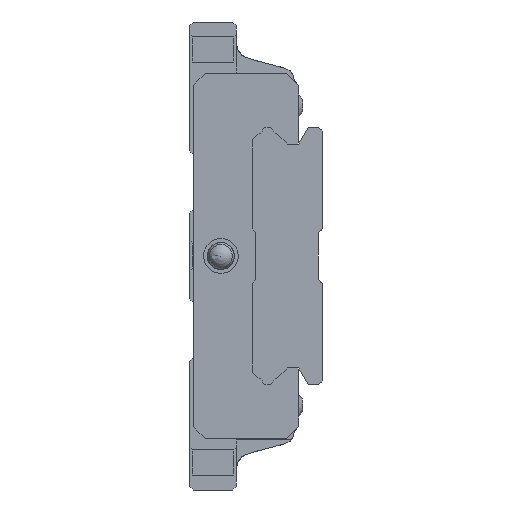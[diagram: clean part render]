
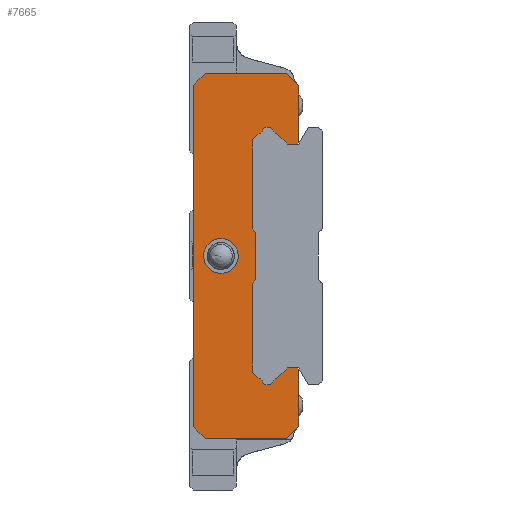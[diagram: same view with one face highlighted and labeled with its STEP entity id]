
A CAD part, left-side view. The second image highlights one B-rep face of the part: STEP entity #7665.
In plain terms, the highlighted planar face has unit normal (-1, 0, 0).
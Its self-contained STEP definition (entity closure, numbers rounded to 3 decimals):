
#58=LINE('',#11802,#438);
#66=LINE('',#11823,#446);
#68=LINE('',#11832,#448);
#75=LINE('',#11848,#455);
#76=LINE('',#11850,#456);
#77=LINE('',#11852,#457);
#78=LINE('',#11854,#458);
#79=LINE('',#11856,#459);
#80=LINE('',#11858,#460);
#81=LINE('',#11860,#461);
#82=LINE('',#11862,#462);
#83=LINE('',#11863,#463);
#84=LINE('',#11865,#464);
#85=LINE('',#11867,#465);
#86=LINE('',#11869,#466);
#87=LINE('',#11873,#467);
#88=LINE('',#11875,#468);
#89=LINE('',#11877,#469);
#90=LINE('',#11881,#470);
#91=LINE('',#11883,#471);
#92=LINE('',#11885,#472);
#93=LINE('',#11886,#473);
#94=LINE('',#11888,#474);
#95=LINE('',#11890,#475);
#96=LINE('',#11894,#476);
#97=LINE('',#11896,#477);
#98=LINE('',#11898,#478);
#99=LINE('',#11902,#479);
#100=LINE('',#11904,#480);
#101=LINE('',#11906,#481);
#438=VECTOR('',#9314,1000.);
#446=VECTOR('',#9328,1000.);
#448=VECTOR('',#9336,1000.);
#455=VECTOR('',#9347,1000.);
#456=VECTOR('',#9348,1000.);
#457=VECTOR('',#9349,1000.);
#458=VECTOR('',#9350,1000.);
#459=VECTOR('',#9351,1000.);
#460=VECTOR('',#9352,1000.);
#461=VECTOR('',#9353,1000.);
#462=VECTOR('',#9354,1000.);
#463=VECTOR('',#9355,1000.);
#464=VECTOR('',#9356,1000.);
#465=VECTOR('',#9357,1000.);
#466=VECTOR('',#9358,1000.);
#467=VECTOR('',#9361,1000.);
#468=VECTOR('',#9362,1000.);
#469=VECTOR('',#9363,1000.);
#470=VECTOR('',#9366,1000.);
#471=VECTOR('',#9367,1000.);
#472=VECTOR('',#9368,1000.);
#473=VECTOR('',#9369,1000.);
#474=VECTOR('',#9370,1000.);
#475=VECTOR('',#9371,1000.);
#476=VECTOR('',#9374,1000.);
#477=VECTOR('',#9375,1000.);
#478=VECTOR('',#9376,1000.);
#479=VECTOR('',#9379,1000.);
#480=VECTOR('',#9380,1000.);
#481=VECTOR('',#9381,1000.);
#839=PLANE('',#8238);
#1377=ORIENTED_EDGE('',*,*,#3219,.T.);
#1378=ORIENTED_EDGE('',*,*,#3220,.T.);
#1379=ORIENTED_EDGE('',*,*,#3208,.F.);
#1380=ORIENTED_EDGE('',*,*,#3221,.F.);
#1381=ORIENTED_EDGE('',*,*,#3222,.F.);
#1382=ORIENTED_EDGE('',*,*,#3223,.F.);
#1383=ORIENTED_EDGE('',*,*,#3224,.F.);
#1384=ORIENTED_EDGE('',*,*,#3225,.F.);
#1385=ORIENTED_EDGE('',*,*,#3226,.F.);
#1386=ORIENTED_EDGE('',*,*,#3227,.F.);
#1387=ORIENTED_EDGE('',*,*,#3212,.F.);
#1388=ORIENTED_EDGE('',*,*,#3228,.T.);
#1389=ORIENTED_EDGE('',*,*,#3229,.T.);
#1390=ORIENTED_EDGE('',*,*,#3230,.T.);
#1391=ORIENTED_EDGE('',*,*,#3231,.T.);
#1392=ORIENTED_EDGE('',*,*,#3232,.F.);
#1393=ORIENTED_EDGE('',*,*,#3233,.T.);
#1394=ORIENTED_EDGE('',*,*,#3234,.T.);
#1395=ORIENTED_EDGE('',*,*,#3235,.T.);
#1396=ORIENTED_EDGE('',*,*,#3236,.F.);
#1397=ORIENTED_EDGE('',*,*,#3237,.T.);
#1398=ORIENTED_EDGE('',*,*,#3238,.T.);
#1399=ORIENTED_EDGE('',*,*,#3239,.T.);
#1400=ORIENTED_EDGE('',*,*,#3198,.T.);
#1401=ORIENTED_EDGE('',*,*,#3240,.T.);
#1402=ORIENTED_EDGE('',*,*,#3241,.T.);
#1403=ORIENTED_EDGE('',*,*,#3242,.T.);
#1404=ORIENTED_EDGE('',*,*,#3243,.F.);
#1405=ORIENTED_EDGE('',*,*,#3244,.T.);
#1406=ORIENTED_EDGE('',*,*,#3245,.T.);
#1407=ORIENTED_EDGE('',*,*,#3246,.T.);
#1408=ORIENTED_EDGE('',*,*,#3247,.F.);
#1409=ORIENTED_EDGE('',*,*,#3248,.T.);
#1410=ORIENTED_EDGE('',*,*,#3249,.T.);
#1411=ORIENTED_EDGE('',*,*,#3250,.T.);
#3198=EDGE_CURVE('',#4119,#4120,#58,.T.);
#3208=EDGE_CURVE('',#4130,#4124,#66,.T.);
#3212=EDGE_CURVE('',#4134,#4135,#68,.T.);
#3219=EDGE_CURVE('',#4141,#4141,#4898,.T.);
#3220=EDGE_CURVE('',#4142,#4124,#75,.T.);
#3221=EDGE_CURVE('',#4143,#4130,#76,.T.);
#3222=EDGE_CURVE('',#4144,#4143,#77,.T.);
#3223=EDGE_CURVE('',#4145,#4144,#78,.T.);
#3224=EDGE_CURVE('',#4146,#4145,#79,.T.);
#3225=EDGE_CURVE('',#4147,#4146,#80,.T.);
#3226=EDGE_CURVE('',#4148,#4147,#81,.T.);
#3227=EDGE_CURVE('',#4135,#4148,#82,.T.);
#3228=EDGE_CURVE('',#4134,#4149,#83,.T.);
#3229=EDGE_CURVE('',#4149,#4150,#84,.T.);
#3230=EDGE_CURVE('',#4150,#4151,#85,.T.);
#3231=EDGE_CURVE('',#4151,#4152,#86,.T.);
#3232=EDGE_CURVE('',#4153,#4152,#4899,.T.);
#3233=EDGE_CURVE('',#4153,#4154,#87,.T.);
#3234=EDGE_CURVE('',#4154,#4155,#88,.T.);
#3235=EDGE_CURVE('',#4155,#4156,#89,.T.);
#3236=EDGE_CURVE('',#4157,#4156,#4900,.T.);
#3237=EDGE_CURVE('',#4157,#4158,#90,.T.);
#3238=EDGE_CURVE('',#4158,#4159,#91,.T.);
#3239=EDGE_CURVE('',#4159,#4119,#92,.T.);
#3240=EDGE_CURVE('',#4120,#4160,#93,.T.);
#3241=EDGE_CURVE('',#4160,#4161,#94,.T.);
#3242=EDGE_CURVE('',#4161,#4162,#95,.T.);
#3243=EDGE_CURVE('',#4163,#4162,#4901,.T.);
#3244=EDGE_CURVE('',#4163,#4164,#96,.T.);
#3245=EDGE_CURVE('',#4164,#4165,#97,.T.);
#3246=EDGE_CURVE('',#4165,#4166,#98,.T.);
#3247=EDGE_CURVE('',#4167,#4166,#4902,.T.);
#3248=EDGE_CURVE('',#4167,#4168,#99,.T.);
#3249=EDGE_CURVE('',#4168,#4169,#100,.T.);
#3250=EDGE_CURVE('',#4169,#4142,#101,.T.);
#4119=VERTEX_POINT('',#11798);
#4120=VERTEX_POINT('',#11801);
#4124=VERTEX_POINT('',#11810);
#4130=VERTEX_POINT('',#11822);
#4134=VERTEX_POINT('',#11831);
#4135=VERTEX_POINT('',#11833);
#4141=VERTEX_POINT('',#11847);
#4142=VERTEX_POINT('',#11849);
#4143=VERTEX_POINT('',#11851);
#4144=VERTEX_POINT('',#11853);
#4145=VERTEX_POINT('',#11855);
#4146=VERTEX_POINT('',#11857);
#4147=VERTEX_POINT('',#11859);
#4148=VERTEX_POINT('',#11861);
#4149=VERTEX_POINT('',#11864);
#4150=VERTEX_POINT('',#11866);
#4151=VERTEX_POINT('',#11868);
#4152=VERTEX_POINT('',#11870);
#4153=VERTEX_POINT('',#11872);
#4154=VERTEX_POINT('',#11874);
#4155=VERTEX_POINT('',#11876);
#4156=VERTEX_POINT('',#11878);
#4157=VERTEX_POINT('',#11880);
#4158=VERTEX_POINT('',#11882);
#4159=VERTEX_POINT('',#11884);
#4160=VERTEX_POINT('',#11887);
#4161=VERTEX_POINT('',#11889);
#4162=VERTEX_POINT('',#11891);
#4163=VERTEX_POINT('',#11893);
#4164=VERTEX_POINT('',#11895);
#4165=VERTEX_POINT('',#11897);
#4166=VERTEX_POINT('',#11899);
#4167=VERTEX_POINT('',#11901);
#4168=VERTEX_POINT('',#11903);
#4169=VERTEX_POINT('',#11905);
#4898=CIRCLE('',#8239,1.5);
#4899=CIRCLE('',#8240,1.04);
#4900=CIRCLE('',#8241,1.04);
#4901=CIRCLE('',#8242,1.04);
#4902=CIRCLE('',#8243,1.04);
#5429=EDGE_LOOP('',(#1377));
#5430=EDGE_LOOP('',(#1378,#1379,#1380,#1381,#1382,#1383,#1384,#1385,#1386,
#1387,#1388,#1389,#1390,#1391,#1392,#1393,#1394,#1395,#1396,#1397,#1398,
#1399,#1400,#1401,#1402,#1403,#1404,#1405,#1406,#1407,#1408,#1409,#1410,
#1411));
#6551=FACE_BOUND('',#5429,.T.);
#6552=FACE_BOUND('',#5430,.T.);
#7665=ADVANCED_FACE('',(#6551,#6552),#839,.F.);
#8238=AXIS2_PLACEMENT_3D('',#11845,#9343,#9344);
#8239=AXIS2_PLACEMENT_3D('',#11846,#9345,#9346);
#8240=AXIS2_PLACEMENT_3D('',#11871,#9359,#9360);
#8241=AXIS2_PLACEMENT_3D('',#11879,#9364,#9365);
#8242=AXIS2_PLACEMENT_3D('',#11892,#9372,#9373);
#8243=AXIS2_PLACEMENT_3D('',#11900,#9377,#9378);
#9314=DIRECTION('',(0.,0.,1.));
#9328=DIRECTION('',(0.,0.,-1.));
#9336=DIRECTION('',(0.,0.,-1.));
#9343=DIRECTION('',(1.,0.,0.));
#9344=DIRECTION('',(0.,0.,-1.));
#9345=DIRECTION('',(1.,0.,0.));
#9346=DIRECTION('',(0.,0.,-1.));
#9347=DIRECTION('',(0.,-0.316,0.949));
#9348=DIRECTION('',(0.,-0.707,-0.707));
#9349=DIRECTION('',(0.,-1.,0.));
#9350=DIRECTION('',(0.,-0.707,0.707));
#9351=DIRECTION('',(0.,0.,1.));
#9352=DIRECTION('',(0.,0.707,0.707));
#9353=DIRECTION('',(0.,1.,0.));
#9354=DIRECTION('',(0.,0.707,-0.707));
#9355=DIRECTION('',(0.,0.316,0.949));
#9356=DIRECTION('',(0.,0.,1.));
#9357=DIRECTION('',(0.,1.,0.));
#9358=DIRECTION('',(0.,0.707,-0.707));
#9359=DIRECTION('',(1.,0.,0.));
#9360=DIRECTION('',(0.,0.,-1.));
#9361=DIRECTION('',(0.,0.707,-0.707));
#9362=DIRECTION('',(0.,1.,0.));
#9363=DIRECTION('',(0.,0.707,0.707));
#9364=DIRECTION('',(1.,0.,0.));
#9365=DIRECTION('',(0.,0.,-1.));
#9366=DIRECTION('',(0.,0.707,0.707));
#9367=DIRECTION('',(0.,0.,1.));
#9368=DIRECTION('',(0.,-0.707,0.707));
#9369=DIRECTION('',(0.,0.707,0.707));
#9370=DIRECTION('',(0.,0.,1.));
#9371=DIRECTION('',(0.,-0.707,0.707));
#9372=DIRECTION('',(1.,0.,0.));
#9373=DIRECTION('',(0.,0.,-1.));
#9374=DIRECTION('',(0.,-0.707,0.707));
#9375=DIRECTION('',(0.,-1.,0.));
#9376=DIRECTION('',(0.,-0.707,-0.707));
#9377=DIRECTION('',(1.,0.,0.));
#9378=DIRECTION('',(0.,0.,-1.));
#9379=DIRECTION('',(0.,-0.707,-0.707));
#9380=DIRECTION('',(0.,-1.,0.));
#9381=DIRECTION('',(0.,0.,1.));
#11798=CARTESIAN_POINT('',(-24.6,6.,-3.));
#11801=CARTESIAN_POINT('',(-24.6,6.,3.));
#11802=CARTESIAN_POINT('',(-24.6,6.,-3.));
#11810=CARTESIAN_POINT('',(-24.6,0.5,15.487));
#11822=CARTESIAN_POINT('',(-24.6,0.5,21.8));
#11823=CARTESIAN_POINT('',(-24.6,0.5,21.8));
#11831=CARTESIAN_POINT('',(-24.6,0.5,-15.487));
#11832=CARTESIAN_POINT('',(-24.6,0.5,21.8));
#11833=CARTESIAN_POINT('',(-24.6,0.5,-21.8));
#11845=CARTESIAN_POINT('',(-24.6,0.,0.));
#11846=CARTESIAN_POINT('',(-24.6,10.5,0.));
#11847=CARTESIAN_POINT('',(-24.6,10.5,-1.5));
#11848=CARTESIAN_POINT('',(-24.6,0.6,15.187));
#11849=CARTESIAN_POINT('',(-24.6,0.6,15.187));
#11850=CARTESIAN_POINT('',(-24.6,2.1,23.4));
#11851=CARTESIAN_POINT('',(-24.6,2.1,23.4));
#11852=CARTESIAN_POINT('',(-24.6,12.5,23.4));
#11853=CARTESIAN_POINT('',(-24.6,12.5,23.4));
#11854=CARTESIAN_POINT('',(-24.6,14.,21.9));
#11855=CARTESIAN_POINT('',(-24.6,14.,21.9));
#11856=CARTESIAN_POINT('',(-24.6,14.,-21.9));
#11857=CARTESIAN_POINT('',(-24.6,14.,-21.9));
#11858=CARTESIAN_POINT('',(-24.6,12.5,-23.4));
#11859=CARTESIAN_POINT('',(-24.6,12.5,-23.4));
#11860=CARTESIAN_POINT('',(-24.6,2.1,-23.4));
#11861=CARTESIAN_POINT('',(-24.6,2.1,-23.4));
#11862=CARTESIAN_POINT('',(-24.6,0.5,-21.8));
#11863=CARTESIAN_POINT('',(-24.6,0.5,-15.487));
#11864=CARTESIAN_POINT('',(-24.6,0.6,-15.187));
#11865=CARTESIAN_POINT('',(-24.6,0.6,-15.187));
#11866=CARTESIAN_POINT('',(-24.6,0.6,-14.35));
#11867=CARTESIAN_POINT('',(-24.6,0.541,-14.35));
#11868=CARTESIAN_POINT('',(-24.6,1.97,-14.35));
#11869=CARTESIAN_POINT('',(-24.6,1.97,-14.35));
#11870=CARTESIAN_POINT('',(-24.6,3.232,-15.612));
#11871=CARTESIAN_POINT('',(-24.6,2.956,-16.615));
#11872=CARTESIAN_POINT('',(-24.6,3.959,-16.339));
#11873=CARTESIAN_POINT('',(-24.6,3.959,-16.339));
#11874=CARTESIAN_POINT('',(-24.6,4.12,-16.5));
#11875=CARTESIAN_POINT('',(-24.6,4.12,-16.5));
#11876=CARTESIAN_POINT('',(-24.6,4.88,-16.5));
#11877=CARTESIAN_POINT('',(-24.6,4.88,-16.5));
#11878=CARTESIAN_POINT('',(-24.6,5.043,-16.337));
#11879=CARTESIAN_POINT('',(-24.6,6.045,-16.615));
#11880=CARTESIAN_POINT('',(-24.6,5.767,-15.613));
#11881=CARTESIAN_POINT('',(-24.6,5.767,-15.613));
#11882=CARTESIAN_POINT('',(-24.6,6.5,-14.88));
#11883=CARTESIAN_POINT('',(-24.6,6.5,-14.88));
#11884=CARTESIAN_POINT('',(-24.6,6.5,-3.5));
#11885=CARTESIAN_POINT('',(-24.6,6.5,-3.5));
#11886=CARTESIAN_POINT('',(-24.6,6.,3.));
#11887=CARTESIAN_POINT('',(-24.6,6.5,3.5));
#11888=CARTESIAN_POINT('',(-24.6,6.5,3.5));
#11889=CARTESIAN_POINT('',(-24.6,6.5,14.88));
#11890=CARTESIAN_POINT('',(-24.6,6.5,14.88));
#11891=CARTESIAN_POINT('',(-24.6,5.767,15.613));
#11892=CARTESIAN_POINT('',(-24.6,6.045,16.615));
#11893=CARTESIAN_POINT('',(-24.6,5.043,16.337));
#11894=CARTESIAN_POINT('',(-24.6,5.043,16.337));
#11895=CARTESIAN_POINT('',(-24.6,4.88,16.5));
#11896=CARTESIAN_POINT('',(-24.6,4.88,16.5));
#11897=CARTESIAN_POINT('',(-24.6,4.12,16.5));
#11898=CARTESIAN_POINT('',(-24.6,4.12,16.5));
#11899=CARTESIAN_POINT('',(-24.6,3.959,16.339));
#11900=CARTESIAN_POINT('',(-24.6,2.956,16.615));
#11901=CARTESIAN_POINT('',(-24.6,3.232,15.612));
#11902=CARTESIAN_POINT('',(-24.6,3.232,15.612));
#11903=CARTESIAN_POINT('',(-24.6,1.97,14.35));
#11904=CARTESIAN_POINT('',(-24.6,1.97,14.35));
#11905=CARTESIAN_POINT('',(-24.6,0.6,14.35));
#11906=CARTESIAN_POINT('',(-24.6,0.6,-15.187));
